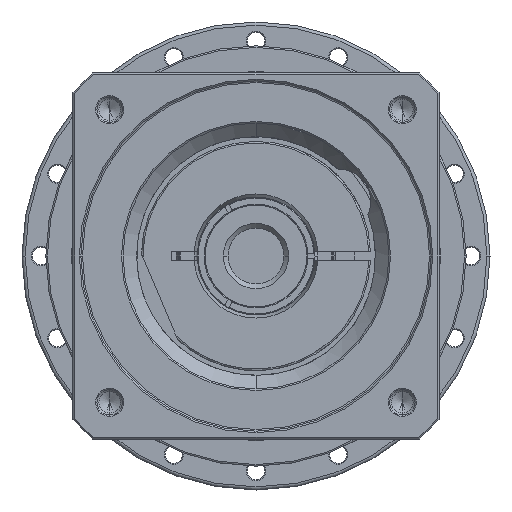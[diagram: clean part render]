
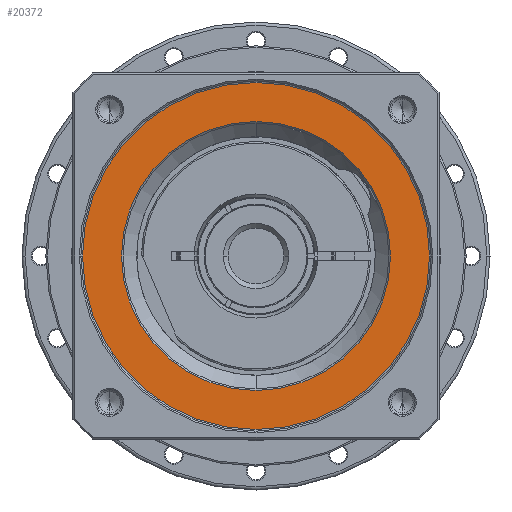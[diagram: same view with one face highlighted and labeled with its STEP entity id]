
A CAD part, left-side view. The second image highlights one B-rep face of the part: STEP entity #20372.
In plain terms, the highlighted planar face has unit normal (-1, 0, 0) as drawn and (0, 0, 1) by its records, which use the part's own axes.
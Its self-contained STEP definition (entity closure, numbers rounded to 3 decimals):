
#19199=CARTESIAN_POINT('',(0.,0.,32.));
#19200=DIRECTION('',(0.,0.,-1.));
#19201=DIRECTION('',(0.,-1.,0.));
#19202=AXIS2_PLACEMENT_3D('',#19199,#19200,#19201);
#19204=CARTESIAN_POINT('',(0.,0.,32.));
#19205=DIRECTION('',(0.,0.,-1.));
#19206=DIRECTION('',(0.,1.,0.));
#19207=AXIS2_PLACEMENT_3D('',#19204,#19205,#19206);
#19209=CARTESIAN_POINT('',(0.,0.,
32.));
#19210=DIRECTION('',(0.,0.,-1.));
#19211=DIRECTION('',(1.,0.,0.));
#19212=AXIS2_PLACEMENT_3D('',#19209,#19210,#19211);
#19214=CARTESIAN_POINT('',(0.,0.,
32.));
#19215=DIRECTION('',(0.,0.,-1.));
#19216=DIRECTION('',(-1.,0.,0.));
#19217=AXIS2_PLACEMENT_3D('',#19214,#19215,#19216);
#20110=CARTESIAN_POINT('',(0.,-54.5,32.));
#20111=CARTESIAN_POINT('',(0.,54.5,32.));
#20112=VERTEX_POINT('',#20110);
#20113=VERTEX_POINT('',#20111);
#20146=CARTESIAN_POINT('',(42.25,0.,32.));
#20147=CARTESIAN_POINT('',(-42.25,0.,
32.));
#20148=VERTEX_POINT('',#20146);
#20149=VERTEX_POINT('',#20147);
#20356=CARTESIAN_POINT('',(0.,0.,32.));
#20357=DIRECTION('',(0.,0.,-1.));
#20358=DIRECTION('',(0.,-1.,0.));
#20359=AXIS2_PLACEMENT_3D('',#20356,#20357,#20358);
#20360=PLANE('',#20359);
#20362=ORIENTED_EDGE('',*,*,#20361,.T.);
#20364=ORIENTED_EDGE('',*,*,#20363,.T.);
#20365=EDGE_LOOP('',(#20362,#20364));
#20366=FACE_OUTER_BOUND('',#20365,.F.);
#20367=ORIENTED_EDGE('',*,*,#20346,.F.);
#20369=ORIENTED_EDGE('',*,*,#20368,.F.);
#20370=EDGE_LOOP('',(#20367,#20369));
#20371=FACE_BOUND('',#20370,.F.);
#20372=ADVANCED_FACE('',(#20366,#20371),#20360,.F.);
#19203=CIRCLE('',#19202,54.5);
#19208=CIRCLE('',#19207,54.5);
#19213=CIRCLE('',#19212,42.25);
#19218=CIRCLE('',#19217,42.25);
#20346=EDGE_CURVE('',#20148,#20149,#19213,.T.);
#20361=EDGE_CURVE('',#20112,#20113,#19203,.T.);
#20363=EDGE_CURVE('',#20113,#20112,#19208,.T.);
#20368=EDGE_CURVE('',#20149,#20148,#19218,.T.);
